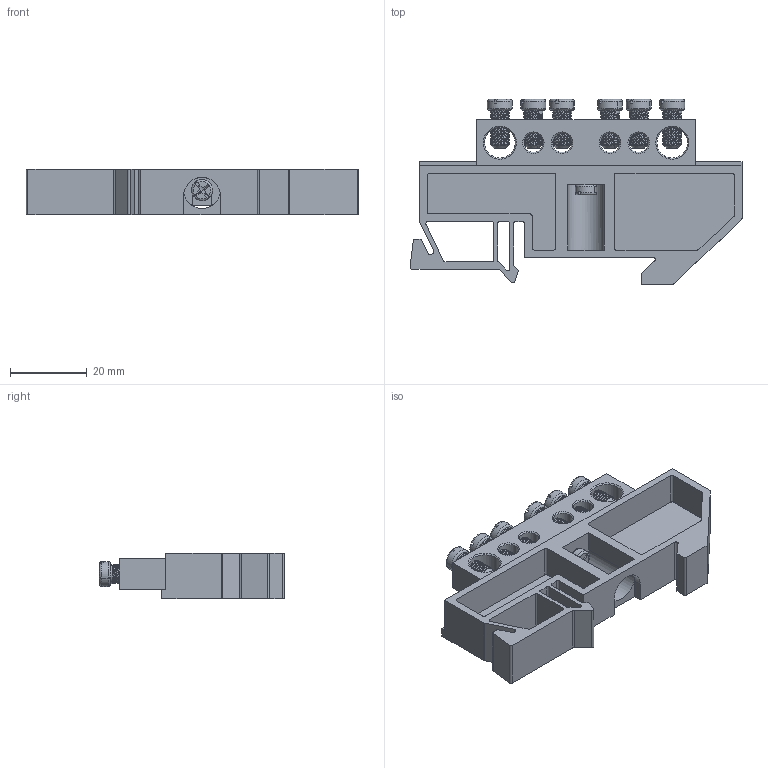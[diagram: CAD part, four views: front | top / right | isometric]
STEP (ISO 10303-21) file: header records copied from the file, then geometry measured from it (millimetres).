
FILE_DESCRIPTION (( 'STEP AP214' ), '1' );
FILE_NAME ('Øèíà íóëåâàÿ ñ DIN èçîëÿòîðîì 8õ12 6.STEP', '2020-02-06T11:35:49', ( '' ), ( '' ), 'SwSTEP 2.0', 'SolidWorks 2018', '' );
FILE_SCHEMA (( 'AUTOMOTIVE_DESIGN' ));
Length unit declared in the file: millimetre
Products named in the file (6): Øèíà íóëåâàÿ ñ êðåïåæíûì îòâåðñòèåì ïî öåíòðó 8õ12 6-1_1; Âèíò ì5; Øèíà 8õ12 6 1; DIN èçîëÿòîð; Âèíò ì4; Øèíà íóëåâàÿ ñ DIN èçîëÿòîðîì 8õ12 6
Assembly tree (10 placements, depth 3):
  Øèíà íóëåâàÿ ñ DIN èçîëÿòîðîì 8õ12 6
    Âèíò ì4
    DIN èçîëÿòîð
    Øèíà íóëåâàÿ ñ êðåïåæíûì îòâåðñòèåì ïî öåíòðó 8õ12 6-1_1
      Øèíà 8õ12 6 1
      Âèíò ì5  x6
Bounding box: 86.63 x 48.3 x 12 mm (x, y, z)
Volume: 17007.5 mm3; surface area: 15857.6 mm2
Topology: 9 solids, 9 shells, 718 faces, 1985 edges, 1270 vertices
Faces by surface type: cylinder 278, plane 265, cone 93, torus 50, bspline 22, sphere 10
Entity records: 15204 total; most frequent: CARTESIAN_POINT 6420, ORIENTED_EDGE 1844, DIRECTION 1699, EDGE_CURVE 922, AXIS2_PLACEMENT_3D 617, VERTEX_POINT 590, VECTOR 465, LINE 465
